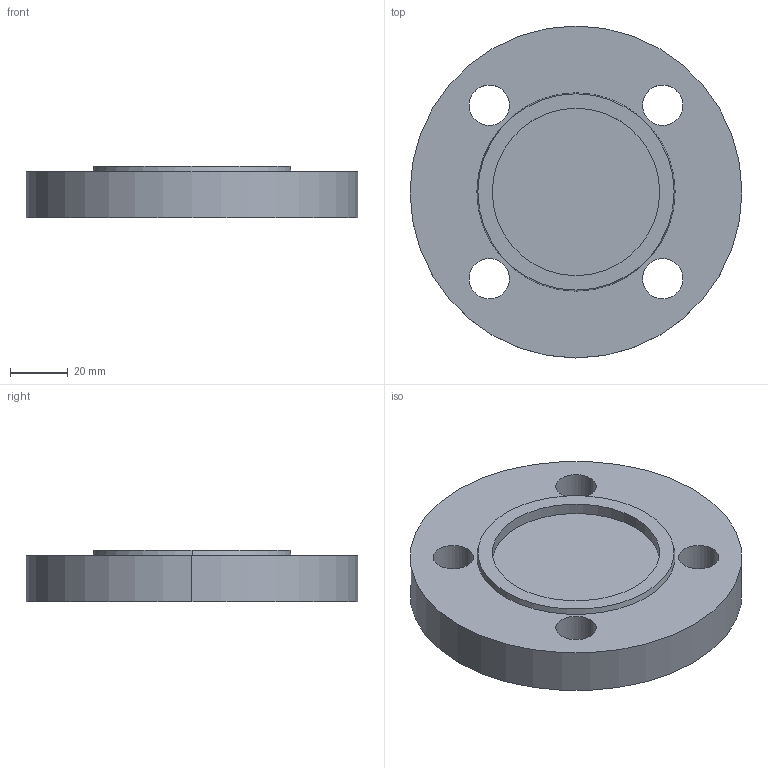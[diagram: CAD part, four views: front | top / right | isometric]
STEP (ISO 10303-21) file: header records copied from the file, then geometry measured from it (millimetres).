
FILE_DESCRIPTION (( 'STEP AP214' ), '1' );
FILE_NAME ('PN40 DN25 Type 05 - Type F Face.STEP', '2018-12-29T20:34:05', ( '' ), ( '' ), 'SwSTEP 2.0', 'SolidWorks 2019', '' );
FILE_SCHEMA (( 'AUTOMOTIVE_DESIGN' ));
Length unit declared in the file: millimetre
Products named in the file (1): PN40 DN25 Type 05 - Type F Face
Bounding box: 115 x 115 x 18 mm (x, y, z)
Volume: 153108.9 mm3; surface area: 29226.9 mm2
Topology: 1 solids, 1 shells, 18 faces, 42 edges, 28 vertices
Faces by surface type: cylinder 12, plane 4, cone 2
Entity records: 584 total; most frequent: DIRECTION 108, CARTESIAN_POINT 89, ORIENTED_EDGE 84, AXIS2_PLACEMENT_3D 47, EDGE_CURVE 42, CIRCLE 28, EDGE_LOOP 28, VERTEX_POINT 28
